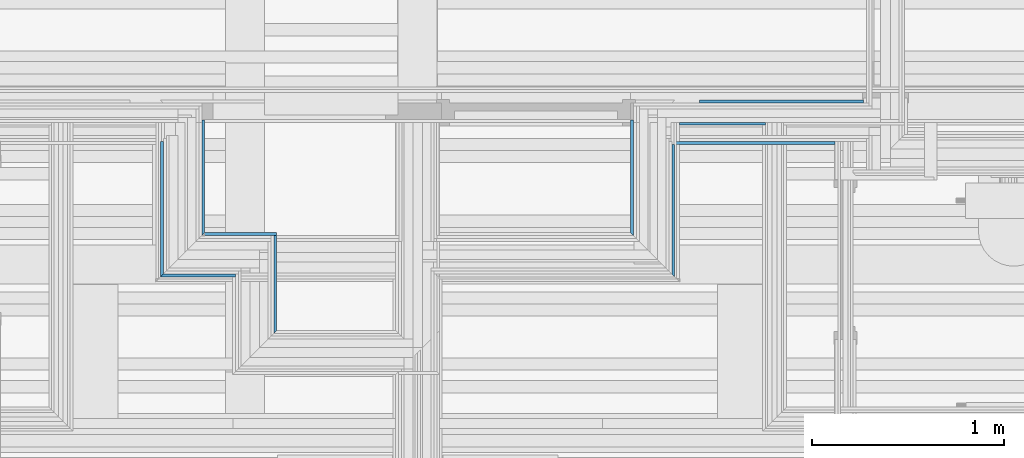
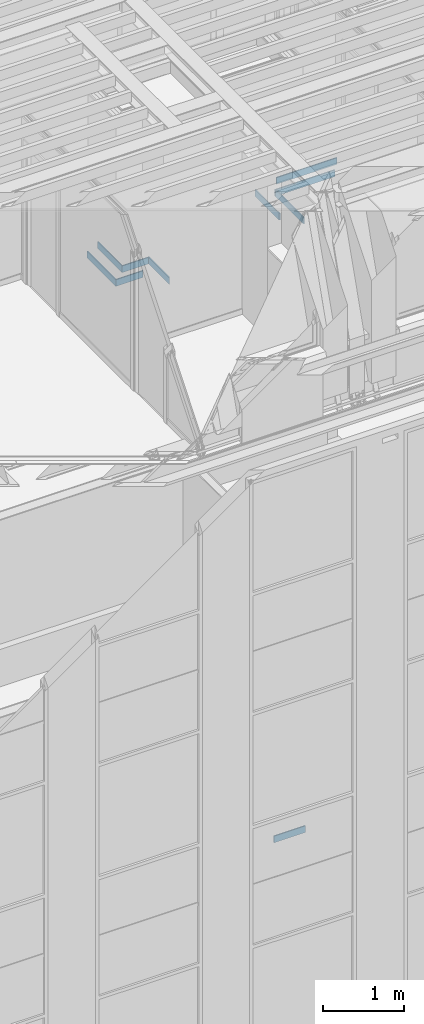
# One storey, part 69 of 183: 10 building element parts, 6 elements without a shape of their own.
"""IFC2X3 building model written with IfcOpenShell, lengths in metres."""

from ifc_helpers import new_model, entity, si_unit, converted_unit, derived_unit, money_unit, direction, frame, frame_2d, origin_with_axes, place, context, subcontext, project, spatial, polyline, rectangle, outline, extrude, material, type_object, element, aggregate, save


model = new_model("IFC2X3")

# Units and contexts
model_context = context("Model", 3, precision=1e-05, world=origin_with_axes(), true_north=direction((0.0, 1.0)))
body_context = subcontext(model_context, "Body", "Model", "MODEL_VIEW", scale=1.0)
ifc_project = project(units=[si_unit("LENGTHUNIT", "METRE"), si_unit("AREAUNIT", "SQUARE_METRE"), si_unit("VOLUMEUNIT", "CUBIC_METRE"), si_unit("ABSORBEDDOSEUNIT", "GRAY"), si_unit("AMOUNTOFSUBSTANCEUNIT", "MOLE"), si_unit("DOSEEQUIVALENTUNIT", "SIEVERT"), si_unit("ELECTRICCAPACITANCEUNIT", "FARAD"), si_unit("ELECTRICCHARGEUNIT", "COULOMB"), si_unit("ELECTRICCONDUCTANCEUNIT", "SIEMENS"), si_unit("ELECTRICCURRENTUNIT", "AMPERE"), si_unit("ELECTRICRESISTANCEUNIT", "OHM"), si_unit("ELECTRICVOLTAGEUNIT", "VOLT"), si_unit("ENERGYUNIT", "JOULE"), si_unit("FORCEUNIT", "NEWTON"), si_unit("FREQUENCYUNIT", "HERTZ"), si_unit("ILLUMINANCEUNIT", "LUX"), si_unit("INDUCTANCEUNIT", "HENRY"), si_unit("LUMINOUSFLUXUNIT", "LUMEN"), si_unit("LUMINOUSINTENSITYUNIT", "CANDELA"), si_unit("MAGNETICFLUXDENSITYUNIT", "TESLA"), si_unit("MAGNETICFLUXUNIT", "WEBER"), si_unit("MASSUNIT", "GRAM"), converted_unit("PLANEANGLEUNIT", "degree", entity("IfcReal", 0.0174532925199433), si_unit("PLANEANGLEUNIT", "RADIAN"), dimensions=[0, 0, 0, 0, 0, 0, 0]), si_unit("POWERUNIT", "WATT"), si_unit("PRESSUREUNIT", "PASCAL"), si_unit("RADIOACTIVITYUNIT", "BECQUEREL"), si_unit("SOLIDANGLEUNIT", "STERADIAN"), si_unit("THERMODYNAMICTEMPERATUREUNIT", "KELVIN"), si_unit("TIMEUNIT", "SECOND"), derived_unit("ACCELERATIONUNIT", [(si_unit("LENGTHUNIT", "METRE"), 1), (si_unit("TIMEUNIT", "SECOND"), -2)]), derived_unit("ANGULARVELOCITYUNIT", [(converted_unit("PLANEANGLEUNIT", "degree", entity("IfcReal", 0.0174532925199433), si_unit("PLANEANGLEUNIT", "RADIAN"), dimensions=[0, 0, 0, 0, 0, 0, 0]), 1), (si_unit("TIMEUNIT", "SECOND"), -1)]), derived_unit("CURVATUREUNIT", [(converted_unit("PLANEANGLEUNIT", "degree", entity("IfcReal", 0.0174532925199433), si_unit("PLANEANGLEUNIT", "RADIAN"), dimensions=[0, 0, 0, 0, 0, 0, 0]), 1), (si_unit("LENGTHUNIT", "METRE"), -1)]), derived_unit("DYNAMICVISCOSITYUNIT", [(si_unit("PRESSUREUNIT", "PASCAL"), 1), (si_unit("TIMEUNIT", "SECOND"), 1)]), derived_unit("HEATFLUXDENSITYUNIT", [(si_unit("POWERUNIT", "WATT"), 1), (si_unit("LENGTHUNIT", "METRE"), -2)]), derived_unit("HEATINGVALUEUNIT", [(si_unit("ENERGYUNIT", "JOULE"), 1), (si_unit("MASSUNIT", "GRAM"), -1)]), derived_unit("INTEGERCOUNTRATEUNIT", [(si_unit("TIMEUNIT", "SECOND"), -1)]), derived_unit("IONCONCENTRATIONUNIT", [(si_unit("MASSUNIT", "GRAM"), 1), (si_unit("VOLUMEUNIT", "CUBIC_METRE"), -1)]), derived_unit("ISOTHERMALMOISTURECAPACITYUNIT", [(si_unit("VOLUMEUNIT", "CUBIC_METRE"), 1), (si_unit("MASSUNIT", "GRAM"), -1)]), derived_unit("KINEMATICVISCOSITYUNIT", [(si_unit("AREAUNIT", "SQUARE_METRE"), 1), (si_unit("TIMEUNIT", "SECOND"), -1)]), derived_unit("LINEARFORCEUNIT", [(si_unit("FORCEUNIT", "NEWTON"), 1), (si_unit("LENGTHUNIT", "METRE"), -1)]), derived_unit("LINEARMOMENTUNIT", [(si_unit("FORCEUNIT", "NEWTON"), 1), (si_unit("LENGTHUNIT", "METRE"), -1)]), derived_unit("LINEARSTIFFNESSUNIT", [(si_unit("FORCEUNIT", "NEWTON"), 1), (si_unit("LENGTHUNIT", "METRE"), -1)]), derived_unit("LINEARVELOCITYUNIT", [(si_unit("LENGTHUNIT", "METRE"), 1), (si_unit("TIMEUNIT", "SECOND"), -1)]), derived_unit("LUMINOUSINTENSITYDISTRIBUTIONUNIT", [(si_unit("LUMINOUSINTENSITYUNIT", "CANDELA"), 1), (si_unit("LUMINOUSFLUXUNIT", "LUMEN"), -1)]), derived_unit("MASSDENSITYUNIT", [(si_unit("MASSUNIT", "GRAM"), 1), (si_unit("VOLUMEUNIT", "CUBIC_METRE"), -1)]), derived_unit("MASSFLOWRATEUNIT", [(si_unit("MASSUNIT", "GRAM"), 1), (si_unit("TIMEUNIT", "SECOND"), -1)]), derived_unit("MASSPERLENGTHUNIT", [(si_unit("MASSUNIT", "GRAM"), 1), (si_unit("LENGTHUNIT", "METRE"), -1)]), derived_unit("MODULUSOFELASTICITYUNIT", [(si_unit("FORCEUNIT", "NEWTON"), 1), (si_unit("AREAUNIT", "SQUARE_METRE"), -1)]), derived_unit("MODULUSOFLINEARSUBGRADEREACTIONUNIT", [(si_unit("FORCEUNIT", "NEWTON"), 1), (si_unit("LENGTHUNIT", "METRE"), -2)]), derived_unit("MODULUSOFROTATIONALSUBGRADEREACTIONUNIT", [(si_unit("FORCEUNIT", "NEWTON"), 1), (si_unit("LENGTHUNIT", "METRE"), 1)]), derived_unit("MODULUSOFSUBGRADEREACTIONUNIT", [(si_unit("FORCEUNIT", "NEWTON"), 1), (si_unit("VOLUMEUNIT", "CUBIC_METRE"), -1)]), derived_unit("MOISTUREDIFFUSIVITYUNIT", [(si_unit("VOLUMEUNIT", "CUBIC_METRE"), 1), (si_unit("TIMEUNIT", "SECOND"), -1)]), derived_unit("MOLECULARWEIGHTUNIT", [(si_unit("MASSUNIT", "GRAM"), 1), (si_unit("AMOUNTOFSUBSTANCEUNIT", "MOLE"), -1)]), derived_unit("PLANARFORCEUNIT", [(si_unit("FORCEUNIT", "NEWTON"), 1), (si_unit("LENGTHUNIT", "METRE"), -2)]), derived_unit("ROTATIONALFREQUENCYUNIT", [(si_unit("TIMEUNIT", "SECOND"), -1)]), derived_unit("ROTATIONALMASSUNIT", [(si_unit("MASSUNIT", "GRAM"), 1), (si_unit("LENGTHUNIT", "METRE"), 2)]), derived_unit("ROTATIONALSTIFFNESSUNIT", [(si_unit("FORCEUNIT", "NEWTON"), 1), (si_unit("LENGTHUNIT", "METRE"), 1), (converted_unit("PLANEANGLEUNIT", "degree", entity("IfcReal", 0.0174532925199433), si_unit("PLANEANGLEUNIT", "RADIAN"), dimensions=[0, 0, 0, 0, 0, 0, 0]), -1)]), derived_unit("SECTIONAREAINTEGRALUNIT", [(si_unit("LENGTHUNIT", "METRE"), 5)]), derived_unit("SECTIONMODULUSUNIT", [(si_unit("LENGTHUNIT", "METRE"), 3)]), derived_unit("SHEARMODULUSUNIT", [(si_unit("FORCEUNIT", "NEWTON"), 1), (si_unit("AREAUNIT", "SQUARE_METRE"), -1)]), derived_unit("SOUNDPOWERUNIT", [(si_unit("ENERGYUNIT", "JOULE"), 1), (si_unit("TIMEUNIT", "SECOND"), -1)]), derived_unit("SPECIFICHEATCAPACITYUNIT", [(si_unit("FORCEUNIT", "NEWTON"), 1), (si_unit("MASSUNIT", "GRAM"), -1), (si_unit("THERMODYNAMICTEMPERATUREUNIT", "KELVIN"), -1)]), derived_unit("TEMPERATUREGRADIENTUNIT", [(si_unit("THERMODYNAMICTEMPERATUREUNIT", "KELVIN"), 1), (si_unit("LENGTHUNIT", "METRE"), -1)]), derived_unit("THERMALADMITTANCEUNIT", [(si_unit("POWERUNIT", "WATT"), 1), (si_unit("AREAUNIT", "SQUARE_METRE"), -1), (si_unit("THERMODYNAMICTEMPERATUREUNIT", "KELVIN"), -1)]), derived_unit("THERMALCONDUCTANCEUNIT", [(si_unit("POWERUNIT", "WATT"), 1), (si_unit("LENGTHUNIT", "METRE"), -1), (si_unit("THERMODYNAMICTEMPERATUREUNIT", "KELVIN"), -1)]), derived_unit("THERMALEXPANSIONCOEFFICIENTUNIT", [(si_unit("THERMODYNAMICTEMPERATUREUNIT", "KELVIN"), -1)]), derived_unit("THERMALRESISTANCEUNIT", [(si_unit("AREAUNIT", "SQUARE_METRE"), 1), (si_unit("POWERUNIT", "WATT"), -1)]), derived_unit("THERMALTRANSMITTANCEUNIT", [(si_unit("POWERUNIT", "WATT"), 1), (si_unit("AREAUNIT", "SQUARE_METRE"), -1), (si_unit("THERMODYNAMICTEMPERATUREUNIT", "KELVIN"), -1)]), derived_unit("TORQUEUNIT", [(si_unit("FORCEUNIT", "NEWTON"), 1), (si_unit("LENGTHUNIT", "METRE"), 1)]), derived_unit("VAPORPERMEABILITYUNIT", [(si_unit("MASSUNIT", "GRAM"), 1), (si_unit("TIMEUNIT", "SECOND"), -1)]), derived_unit("VOLUMETRICFLOWRATEUNIT", [(si_unit("VOLUMEUNIT", "CUBIC_METRE"), 1), (si_unit("TIMEUNIT", "SECOND"), -1)]), derived_unit("WARPINGCONSTANTUNIT", [(si_unit("LENGTHUNIT", "METRE"), 6)]), derived_unit("WARPINGMOMENTUNIT", [(si_unit("FORCEUNIT", "NEWTON"), 1), (si_unit("LENGTHUNIT", "METRE"), 2)]), money_unit("GBP")], contexts=[model_context])

# Site, building, storey
site_placement = place(None, origin_with_axes())
site = spatial("IfcSite", under=ifc_project, at=site_placement, Name="Site", CompositionType="ELEMENT")
building_placement = place(site_placement, origin_with_axes())
building = spatial("IfcBuilding", under=site, at=building_placement, Name="Building01", CompositionType="ELEMENT")
storey_placement = place(building_placement, frame((0.0, 0.0, 5.15), z_axis=(0.0, 0.0, 1.0), x_axis=(1.0, 0.0, 0.0)))
storey = spatial("IfcBuildingStorey", under=building, at=storey_placement, Name="1F", CompositionType="ELEMENT", Elevation=5.15)

# Wall, building element part
wall_type_1 = type_object("IfcWallType", Name="SHE_A-Walls_Type03a_BlockworkWall_170mm", PredefinedType="NOTDEFINED")
wall_1_placement = place(storey_placement, frame((9.06, 4.995, 0.0), z_axis=(0.0, 0.0, 1.0), x_axis=(1.0, 0.0, 0.0)))
wall_1 = element("IfcWall", 1, at=wall_1_placement, inside=storey, type_object=wall_type_1, Name="4B", ObjectType="SHE_A-Walls_Type03a_BlockworkWall_170mm")
ifc_material = material(Name="A_BSUK_Walls_Timber")
building_element_part_1_placement = place(wall_1_placement, origin_with_axes())
building_element_part_1 = element("IfcBuildingElementPart", 2, at=building_element_part_1_placement, material=ifc_material, Name="2", context=body_context, shape_type="SweptSolid", body=[
    extrude(rectangle(XDim=0.4475, YDim=0.015, at=frame_2d((6.02875, -0.0225), x_axis=(-1.0, 0.0))), frame((0.0, 0.0, 0.015), z_axis=(0.0, 0.0, 1.0), x_axis=(1.0, 0.0, 0.0)), (0.0, 0.0, 1.0), 0.1),
])
aggregate(wall_1, [building_element_part_1])

# Wall, building element parts
wall_type_2 = type_object("IfcWallType", Name="SHE_A-Walls_Type01d_Partywall_200mm_twin", PredefinedType="NOTDEFINED")
wall_2_placement = place(storey_placement, frame((12.25, 5.005, 9.78), z_axis=(0.0, 0.0, 1.0), x_axis=(0.0, -1.0, 0.0)))
wall_2 = element("IfcWall", 3, at=wall_2_placement, inside=storey, type_object=wall_type_2, Name="1D", ObjectType="SHE_A-Walls_Type01d_Partywall_200mm_twin")
placement_1 = place(wall_2_placement, origin_with_axes())
building_element_part_2 = element("IfcBuildingElementPart", 4, at=placement_1, material=ifc_material, Name="1", context=body_context, shape_type="SweptSolid", body=[
    extrude(outline(polyline([(0.815572, -0.075), (0.125, -0.075), (0.125, -0.09), (0.830572, -0.09), (0.815572, -0.075)])), frame((0.0, 0.0, 0.015), z_axis=(0.0, 0.0, 1.0), x_axis=(1.0, 0.0, 0.0)), (0.0, 0.0, 1.0), 0.1),
])
building_element_part_3 = element("IfcBuildingElementPart", 5, at=placement_1, material=ifc_material, Name="9", context=body_context, shape_type="SweptSolid", body=[
    extrude(outline(polyline([(0.600572, 0.14), (0.012, 0.14), (0.012, 0.125), (0.615572, 0.125), (0.600572, 0.14)])), frame((0.0, 0.0, 0.015), z_axis=(0.0, 0.0, 1.0), x_axis=(1.0, 0.0, 0.0)), (0.0, 0.0, 1.0), 0.1),
])
aggregate(wall_2, [building_element_part_2, building_element_part_3])

wall_3_placement = place(storey_placement, frame((14.7, 5.005, 9.78), z_axis=(0.0, 0.0, 1.0), x_axis=(0.0, -1.0, 0.0)))
wall_3 = element("IfcWall", 6, at=wall_3_placement, inside=storey, type_object=wall_type_2, Name="1D", ObjectType="SHE_A-Walls_Type01d_Partywall_200mm_twin")
placement_2 = place(wall_3_placement, origin_with_axes())
building_element_part_4 = element("IfcBuildingElementPart", 7, at=placement_2, material=ifc_material, Name="1", context=body_context, shape_type="SweptSolid", body=[
    extrude(outline(polyline([(0.615572, -0.075), (0.012, -0.075), (0.012, -0.09), (0.600572, -0.09), (0.615572, -0.075)])), frame((0.0, 0.0, 0.015), z_axis=(0.0, 0.0, 1.0), x_axis=(1.0, 0.0, 0.0)), (0.0, 0.0, 1.0), 0.1),
])
building_element_part_5 = element("IfcBuildingElementPart", 8, at=placement_2, material=ifc_material, Name="9", context=body_context, shape_type="SweptSolid", body=[
    extrude(outline(polyline([(0.830572, 0.14), (0.14, 0.14), (0.14, 0.125), (0.815572, 0.125), (0.830572, 0.14)])), frame((0.0, 0.0, 0.015), z_axis=(0.0, 0.0, 1.0), x_axis=(1.0, 0.0, 0.0)), (0.0, 0.0, 1.0), 0.1),
])
aggregate(wall_3, [building_element_part_4, building_element_part_5])

# Wall, building element part
wall_4_placement = place(storey_placement, frame((12.65, 4.264428, 9.78), z_axis=(0.0, 0.0, 1.0), x_axis=(0.0, -1.0, 0.0)))
wall_4 = element("IfcWall", 9, at=wall_4_placement, inside=storey, type_object=wall_type_2, Name="1D", ObjectType="SHE_A-Walls_Type01d_Partywall_200mm_twin")
building_element_part_6_placement = place(wall_4_placement, origin_with_axes())
building_element_part_6 = element("IfcBuildingElementPart", 10, at=building_element_part_6_placement, material=ifc_material, Name="9", context=body_context, shape_type="SweptSolid", body=[
    extrude(outline(polyline([(0.369428, 0.115), (-0.125, 0.115), (-0.125, 0.1), (0.384428, 0.1), (0.369428, 0.115)])), frame((0.0, 0.0, 0.015), z_axis=(0.0, 0.0, 1.0), x_axis=(1.0, 0.0, 0.0)), (0.0, 0.0, 1.0), 0.1),
])
aggregate(wall_4, [building_element_part_6])

# Wall, building element parts
wall_5_placement = place(storey_placement, frame((14.7, 4.314428, 9.78), z_axis=(0.0, 0.0, 1.0), x_axis=(-1.0, 0.0, 0.0)))
wall_5 = element("IfcWall", 11, at=wall_5_placement, inside=storey, type_object=wall_type_2, Name="1D", ObjectType="SHE_A-Walls_Type01d_Partywall_200mm_twin")
placement_3 = place(wall_5_placement, origin_with_axes())
building_element_part_7 = element("IfcBuildingElementPart", 12, at=placement_3, material=ifc_material, Name="2", context=body_context, shape_type="SweptSolid", body=[
    extrude(outline(polyline([(2.325, -0.075), (1.935, -0.075), (1.935, -0.09), (2.31, -0.09), (2.325, -0.075)])), frame((0.0, 0.0, 0.015), z_axis=(0.0, 0.0, 1.0), x_axis=(1.0, 0.0, 0.0)), (0.0, 0.0, 1.0), 0.1),
])
building_element_part_8 = element("IfcBuildingElementPart", 13, at=placement_3, material=ifc_material, Name="16", context=body_context, shape_type="SweptSolid", body=[
    extrude(outline(polyline([(2.54, 0.14), (2.15, 0.14), (2.15, 0.125), (2.525, 0.125), (2.54, 0.14)])), frame((0.0, 0.0, 0.015), z_axis=(0.0, 0.0, 1.0), x_axis=(1.0, 0.0, 0.0)), (0.0, 0.0, 1.0), 0.1),
])
aggregate(wall_5, [building_element_part_7, building_element_part_8])

wall_6_placement = place(storey_placement, frame((14.75, 4.955, 9.78), z_axis=(0.0, 0.0, 1.0), x_axis=(1.0, 0.0, 0.0)))
wall_6 = element("IfcWall", 14, at=wall_6_placement, inside=storey, type_object=wall_type_2, Name="1D", ObjectType="SHE_A-Walls_Type01d_Partywall_200mm_twin")
placement_4 = place(wall_6_placement, origin_with_axes())
building_element_part_9 = element("IfcBuildingElementPart", 15, at=placement_4, material=ifc_material, Name="1", context=body_context, shape_type="SweptSolid", body=[
    extrude(rectangle(XDim=0.85, YDim=0.015, at=frame_2d((0.5, -0.0825), x_axis=(-1.0, 0.0))), frame((0.0, 0.0, 0.015), z_axis=(0.0, 0.0, 1.0), x_axis=(1.0, 0.0, 0.0)), (0.0, 0.0, 1.0), 0.1),
])
building_element_part_10 = element("IfcBuildingElementPart", 16, at=placement_4, material=ifc_material, Name="9", context=body_context, shape_type="SweptSolid", body=[
    extrude(rectangle(XDim=0.854891, YDim=0.015, at=frame_2d((0.645994, 0.1325), x_axis=(-1.0, 0.0))), frame((0.0, 0.0, 0.015), z_axis=(0.0, 0.0, 1.0), x_axis=(1.0, 0.0, 0.0)), (0.0, 0.0, 1.0), 0.1),
])
aggregate(wall_6, [building_element_part_9, building_element_part_10])

save(model, "model.ifc")
